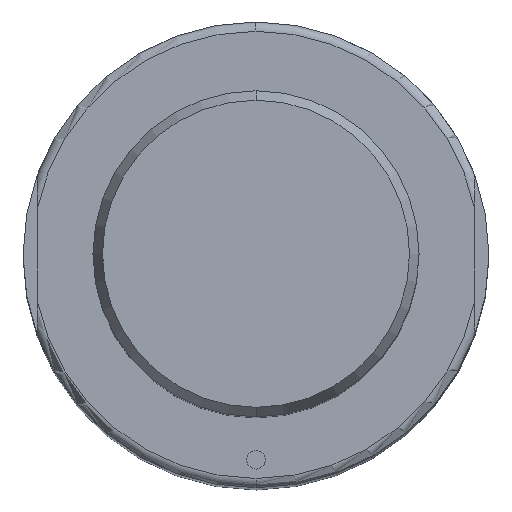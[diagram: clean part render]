
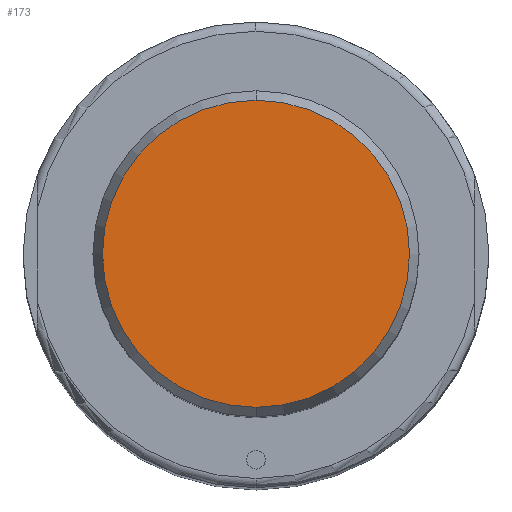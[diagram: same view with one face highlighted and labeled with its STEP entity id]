
A CAD part, top view. The second image highlights one B-rep face of the part: STEP entity #173.
In plain terms, the highlighted planar face has unit normal (0, 0, 1).
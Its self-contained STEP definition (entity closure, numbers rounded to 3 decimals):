
#124=PLANE('',#990);
#173=ADVANCED_FACE('',(#244),#124,.T.);
#244=FACE_OUTER_BOUND('',#297,.T.);
#297=EDGE_LOOP('',(#457,#458));
#364=CIRCLE('',#975,16.481);
#365=CIRCLE('',#977,16.481);
#457=ORIENTED_EDGE('',*,*,#758,.F.);
#458=ORIENTED_EDGE('',*,*,#759,.F.);
#677=VERTEX_POINT('',#1413);
#680=VERTEX_POINT('',#1418);
#758=EDGE_CURVE('',#680,#677,#364,.T.);
#759=EDGE_CURVE('',#677,#680,#365,.T.);
#975=AXIS2_PLACEMENT_3D('',#1419,#1109,#1110);
#977=AXIS2_PLACEMENT_3D('',#1421,#1113,#1114);
#990=AXIS2_PLACEMENT_3D('',#1444,#1143,#1144);
#1109=DIRECTION('',(0.,0.,-1.));
#1110=DIRECTION('',(-1.,0.,0.));
#1113=DIRECTION('',(0.,0.,-1.));
#1114=DIRECTION('',(1.,0.,0.));
#1143=DIRECTION('',(0.,0.,1.));
#1144=DIRECTION('',(0.,-1.,0.));
#1413=CARTESIAN_POINT('',(0.,-16.481,205.));
#1418=CARTESIAN_POINT('',(0.,16.481,205.));
#1419=CARTESIAN_POINT('',(0.,0.,205.));
#1421=CARTESIAN_POINT('',(0.,0.,205.));
#1444=CARTESIAN_POINT('',(0.,0.,205.));
